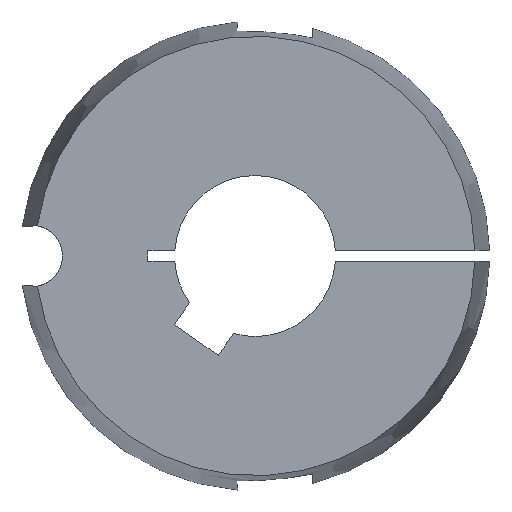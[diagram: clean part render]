
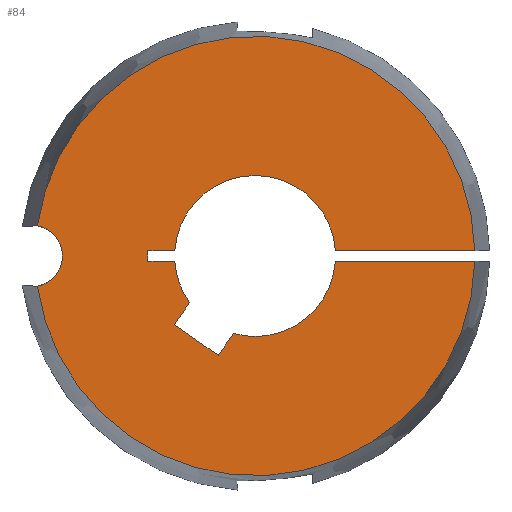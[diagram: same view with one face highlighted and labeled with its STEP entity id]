
A CAD part, left-side view. The second image highlights one B-rep face of the part: STEP entity #84.
In plain terms, the highlighted planar face has unit normal (-1, 0, 0).
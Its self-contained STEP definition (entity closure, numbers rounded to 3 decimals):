
#84 = ADVANCED_FACE( '', ( #114 ), #115, .F. );
#114 = FACE_OUTER_BOUND( '', #154, .T. );
#115 = PLANE( '', #155 );
#154 = EDGE_LOOP( '', ( #251, #252, #253, #254, #255, #256, #257, #258, #259, #260, #261, #262, #263, #264 ) );
#155 = AXIS2_PLACEMENT_3D( '', #265, #266, #267 );
#251 = ORIENTED_EDGE( '', *, *, #349, .T. );
#252 = ORIENTED_EDGE( '', *, *, #381, .F. );
#253 = ORIENTED_EDGE( '', *, *, #352, .T. );
#254 = ORIENTED_EDGE( '', *, *, #365, .T. );
#255 = ORIENTED_EDGE( '', *, *, #363, .T. );
#256 = ORIENTED_EDGE( '', *, *, #360, .T. );
#257 = ORIENTED_EDGE( '', *, *, #369, .T. );
#258 = ORIENTED_EDGE( '', *, *, #382, .T. );
#259 = ORIENTED_EDGE( '', *, *, #383, .T. );
#260 = ORIENTED_EDGE( '', *, *, #384, .T. );
#261 = ORIENTED_EDGE( '', *, *, #385, .T. );
#262 = ORIENTED_EDGE( '', *, *, #386, .T. );
#263 = ORIENTED_EDGE( '', *, *, #354, .T. );
#264 = ORIENTED_EDGE( '', *, *, #387, .F. );
#265 = CARTESIAN_POINT( '', ( -31.8, 0., 0. ) );
#266 = DIRECTION( '', ( 1., 0., 0. ) );
#267 = DIRECTION( '', ( 0., 0., -1. ) );
#349 = EDGE_CURVE( '', #402, #407, #409, .T. );
#352 = EDGE_CURVE( '', #415, #413, #416, .T. );
#354 = EDGE_CURVE( '', #418, #419, #420, .T. );
#360 = EDGE_CURVE( '', #431, #429, #432, .T. );
#363 = EDGE_CURVE( '', #436, #431, #437, .T. );
#365 = EDGE_CURVE( '', #413, #436, #439, .T. );
#369 = EDGE_CURVE( '', #429, #443, #445, .T. );
#381 = EDGE_CURVE( '', #415, #407, #465, .T. );
#382 = EDGE_CURVE( '', #443, #466, #467, .T. );
#383 = EDGE_CURVE( '', #466, #468, #469, .T. );
#384 = EDGE_CURVE( '', #468, #470, #471, .T. );
#385 = EDGE_CURVE( '', #470, #472, #473, .T. );
#386 = EDGE_CURVE( '', #472, #418, #474, .T. );
#387 = EDGE_CURVE( '', #402, #419, #475, .T. );
#402 = VERTEX_POINT( '', #521 );
#407 = VERTEX_POINT( '', #531 );
#409 = CIRCLE( '', #538, 4.6 );
#413 = VERTEX_POINT( '', #543 );
#415 = VERTEX_POINT( '', #546 );
#416 = LINE( '', #547, #548 );
#418 = VERTEX_POINT( '', #556 );
#419 = VERTEX_POINT( '', #557 );
#420 = LINE( '', #558, #559 );
#429 = VERTEX_POINT( '', #577 );
#431 = VERTEX_POINT( '', #580 );
#432 = LINE( '', #581, #582 );
#436 = VERTEX_POINT( '', #588 );
#437 = LINE( '', #589, #590 );
#439 = CIRCLE( '', #593, 12. );
#443 = VERTEX_POINT( '', #598 );
#445 = LINE( '', #601, #602 );
#465 = CIRCLE( '', #625, 32.776 );
#466 = VERTEX_POINT( '', #626 );
#467 = CIRCLE( '', #627, 12. );
#468 = VERTEX_POINT( '', #628 );
#469 = LINE( '', #629, #630 );
#470 = VERTEX_POINT( '', #631 );
#471 = LINE( '', #632, #633 );
#472 = VERTEX_POINT( '', #634 );
#473 = LINE( '', #635, #636 );
#474 = CIRCLE( '', #637, 12. );
#475 = CIRCLE( '', #638, 32.776 );
#521 = CARTESIAN_POINT( '', ( -31.8, 32.464, 4.516 ) );
#531 = CARTESIAN_POINT( '', ( -31.8, 32.464, -4.516 ) );
#538 = AXIS2_PLACEMENT_3D( '', #702, #703, #704 );
#543 = CARTESIAN_POINT( '', ( -31.8, -11.977, -0.75 ) );
#546 = CARTESIAN_POINT( '', ( -31.8, -32.768, -0.75 ) );
#547 = CARTESIAN_POINT( '', ( -31.8, -35., -0.75 ) );
#548 = VECTOR( '', #707, 1000. );
#556 = CARTESIAN_POINT( '', ( -31.8, -11.977, 0.75 ) );
#557 = CARTESIAN_POINT( '', ( -31.8, -32.768, 0.75 ) );
#558 = CARTESIAN_POINT( '', ( -31.8, 0., 0.75 ) );
#559 = VECTOR( '', #708, 1000. );
#577 = CARTESIAN_POINT( '', ( -31.8, 12.052, -10.239 ) );
#580 = CARTESIAN_POINT( '', ( -31.8, 5.499, -14.827 ) );
#581 = CARTESIAN_POINT( '', ( -31.8, 5.499, -14.827 ) );
#582 = VECTOR( '', #713, 1000. );
#588 = CARTESIAN_POINT( '', ( -31.8, 3.213, -11.562 ) );
#589 = CARTESIAN_POINT( '', ( -31.8, 3.213, -11.562 ) );
#590 = VECTOR( '', #716, 1000. );
#593 = AXIS2_PLACEMENT_3D( '', #718, #719, #720 );
#598 = CARTESIAN_POINT( '', ( -31.8, 9.766, -6.973 ) );
#601 = CARTESIAN_POINT( '', ( -31.8, 12.052, -10.239 ) );
#602 = VECTOR( '', #726, 1000. );
#625 = AXIS2_PLACEMENT_3D( '', #754, #755, #756 );
#626 = CARTESIAN_POINT( '', ( -31.8, 11.977, -0.75 ) );
#627 = AXIS2_PLACEMENT_3D( '', #757, #758, #759 );
#628 = CARTESIAN_POINT( '', ( -31.8, 16., -0.75 ) );
#629 = CARTESIAN_POINT( '', ( -31.8, 0., -0.75 ) );
#630 = VECTOR( '', #760, 1000. );
#631 = CARTESIAN_POINT( '', ( -31.8, 16., 0.75 ) );
#632 = CARTESIAN_POINT( '', ( -31.8, 16., -0.75 ) );
#633 = VECTOR( '', #761, 1000. );
#634 = CARTESIAN_POINT( '', ( -31.8, 11.977, 0.75 ) );
#635 = CARTESIAN_POINT( '', ( -31.8, 16., 0.75 ) );
#636 = VECTOR( '', #762, 1000. );
#637 = AXIS2_PLACEMENT_3D( '', #763, #764, #765 );
#638 = AXIS2_PLACEMENT_3D( '', #766, #767, #768 );
#702 = CARTESIAN_POINT( '', ( -31.8, 33.34, 0. ) );
#703 = DIRECTION( '', ( 1., 0., 0. ) );
#704 = DIRECTION( '', ( 0., 1., 0. ) );
#707 = DIRECTION( '', ( 0., 1., 0. ) );
#708 = DIRECTION( '', ( 0., -1., 0. ) );
#713 = DIRECTION( '', ( 0., 0.819, 0.574 ) );
#716 = DIRECTION( '', ( 0., 0.574, -0.819 ) );
#718 = CARTESIAN_POINT( '', ( -31.8, 0., 0. ) );
#719 = DIRECTION( '', ( 1., 0., 0. ) );
#720 = DIRECTION( '', ( 0., 0., -1. ) );
#726 = DIRECTION( '', ( 0., -0.574, 0.819 ) );
#754 = CARTESIAN_POINT( '', ( -31.8, 0., 0. ) );
#755 = DIRECTION( '', ( 1., 0., 0. ) );
#756 = DIRECTION( '', ( 0., 0., -1. ) );
#757 = CARTESIAN_POINT( '', ( -31.8, 0., 0. ) );
#758 = DIRECTION( '', ( 1., 0., 0. ) );
#759 = DIRECTION( '', ( 0., 0., -1. ) );
#760 = DIRECTION( '', ( 0., 1., 0. ) );
#761 = DIRECTION( '', ( 0., 0., 1. ) );
#762 = DIRECTION( '', ( 0., -1., 0. ) );
#763 = CARTESIAN_POINT( '', ( -31.8, 0., 0. ) );
#764 = DIRECTION( '', ( 1., 0., 0. ) );
#765 = DIRECTION( '', ( 0., 0., -1. ) );
#766 = CARTESIAN_POINT( '', ( -31.8, 0., 0. ) );
#767 = DIRECTION( '', ( 1., 0., 0. ) );
#768 = DIRECTION( '', ( 0., 0., -1. ) );
